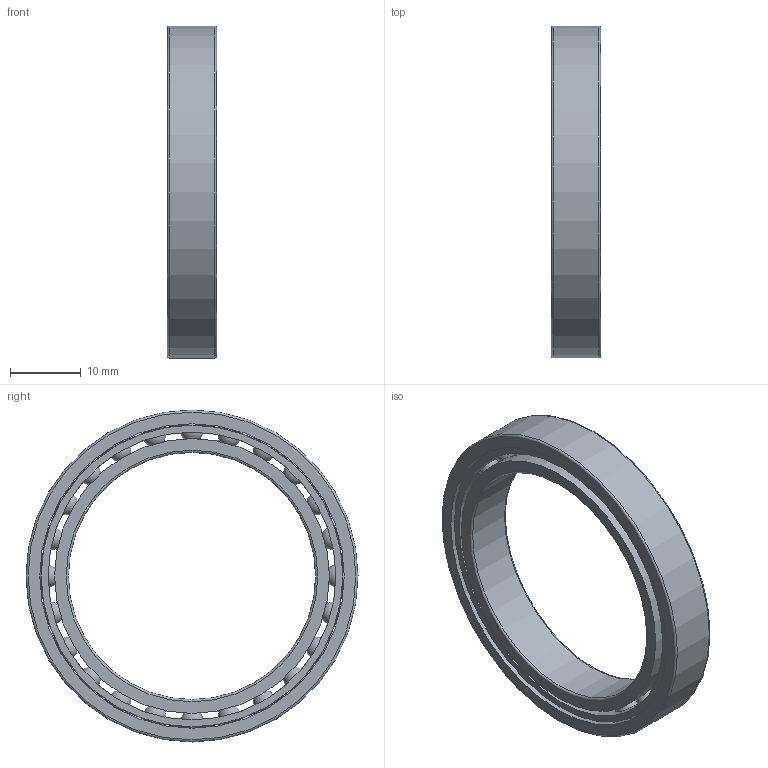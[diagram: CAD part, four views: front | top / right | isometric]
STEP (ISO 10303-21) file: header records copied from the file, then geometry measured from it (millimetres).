
FILE_DESCRIPTION(/* description */ (''),/* implementation_level */ '2;1');
FILE_NAME(/* name */ 'S_61807_TA.step',/* time_stamp */ '2013-03-06T14:46:39+01:00',/* author */ ('Marian'),/* organization */ ('GMN'),/* preprocessor_version */ 'ST-DEVELOPER v11',/* originating_system */ 'SIEMENS UGS NX 6.0',/* authorisation */ '');
FILE_SCHEMA (('CONFIG_CONTROL_DESIGN'));
Length unit declared in the file: millimetre
Products named in the file (1): S_61807_TA
Bounding box: 7 x 47 x 47 mm (x, y, z)
Volume: 4066.6 mm3; surface area: 6954.8 mm2
Topology: 27 solids, 27 shells, 68 faces, 182 edges, 118 vertices
Faces by surface type: cylinder 31, sphere 24, torus 6, plane 6, cone 1
Full cylindrical faces by diameter (mm): 3.375 x24, 35 x1, 38.9 x2, 40.735 x1, 42.7 x1, 43.1 x1, 47 x1
Entity records: 4194 total; most frequent: CARTESIAN_POINT 2965, DIRECTION 178, FACE_BOUND 160, EDGE_LOOP 136, ORIENTED_EDGE 136, VERTEX_POINT 92, AXIS2_PLACEMENT_3D 89, EDGE_CURVE 68
